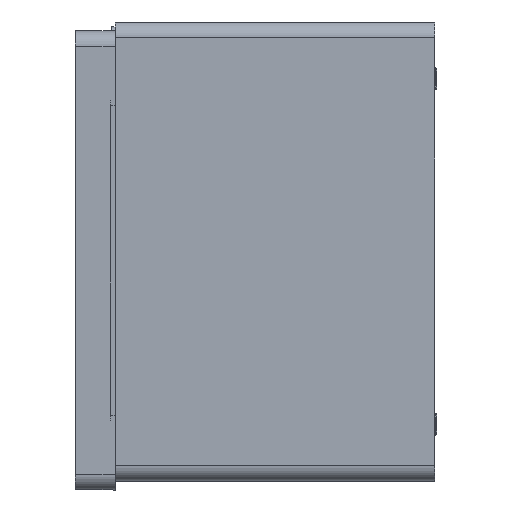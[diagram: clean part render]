
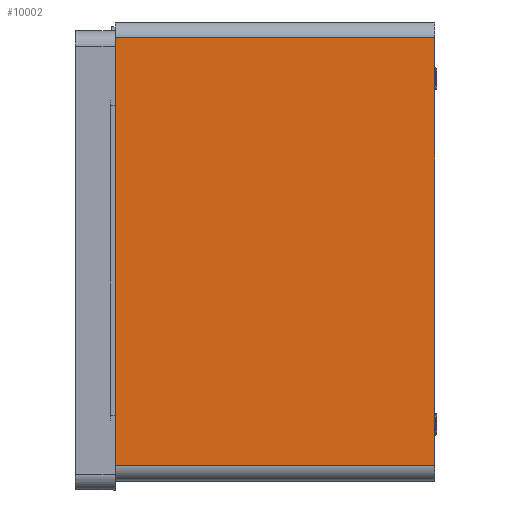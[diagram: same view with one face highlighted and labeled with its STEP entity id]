
A CAD part, left-side view. The second image highlights one B-rep face of the part: STEP entity #10002.
In plain terms, the highlighted planar face has unit normal (-1, 0, 0).
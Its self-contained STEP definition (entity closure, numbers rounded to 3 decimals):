
#78 = CARTESIAN_POINT ( 'NONE',  ( -165., 160., 107. ) ) ;
#1063 = ORIENTED_EDGE ( 'NONE', *, *, #20708, .T. ) ;
#2649 = DIRECTION ( 'NONE',  ( 0., 0., -1. ) ) ;
#2733 = VERTEX_POINT ( 'NONE', #78 ) ;
#3170 = VECTOR ( 'NONE', #15038, 1000. ) ;
#3516 = AXIS2_PLACEMENT_3D ( 'NONE', #11048, #21936, #2649 ) ;
#5884 = EDGE_CURVE ( 'NONE', #7069, #15646, #7267, .T. ) ;
#6091 = DIRECTION ( 'NONE',  ( 0., 0., 1. ) ) ;
#6212 = EDGE_CURVE ( 'NONE', #25287, #2733, #23024, .T. ) ;
#6649 = VECTOR ( 'NONE', #13894, 1000. ) ;
#7069 = VERTEX_POINT ( 'NONE', #11928 ) ;
#7267 = LINE ( 'NONE', #15680, #6649 ) ;
#7484 = CARTESIAN_POINT ( 'NONE',  ( -165., 0., -107. ) ) ;
#8034 = LINE ( 'NONE', #24824, #8131 ) ;
#8131 = VECTOR ( 'NONE', #6091, 1000. ) ;
#8187 = ORIENTED_EDGE ( 'NONE', *, *, #22370, .F. ) ;
#10002 = ADVANCED_FACE ( 'NONE', ( #15876 ), #21528, .F. ) ;
#11048 = CARTESIAN_POINT ( 'NONE',  ( -165., 160., -115. ) ) ;
#11928 = CARTESIAN_POINT ( 'NONE',  ( -165., 160., -107. ) ) ;
#12186 = EDGE_LOOP ( 'NONE', ( #1063, #25700, #8187, #21840 ) ) ;
#13094 = CARTESIAN_POINT ( 'NONE',  ( -165., 0., 107. ) ) ;
#13894 = DIRECTION ( 'NONE',  ( 0., -1., 0. ) ) ;
#15038 = DIRECTION ( 'NONE',  ( 0., 1., 0. ) ) ;
#15646 = VERTEX_POINT ( 'NONE', #7484 ) ;
#15680 = CARTESIAN_POINT ( 'NONE',  ( -165., 160., -107. ) ) ;
#15876 = FACE_OUTER_BOUND ( 'NONE', #12186, .T. ) ;
#17055 = CARTESIAN_POINT ( 'NONE',  ( -165., 0., -115. ) ) ;
#18717 = LINE ( 'NONE', #17055, #20873 ) ;
#20708 = EDGE_CURVE ( 'NONE', #15646, #25287, #18717, .T. ) ;
#20873 = VECTOR ( 'NONE', #22961, 1000. ) ;
#21247 = CARTESIAN_POINT ( 'NONE',  ( -165., 160., 107. ) ) ;
#21528 = PLANE ( 'NONE',  #3516 ) ;
#21840 = ORIENTED_EDGE ( 'NONE', *, *, #5884, .T. ) ;
#21936 = DIRECTION ( 'NONE',  ( 1., 0., 0. ) ) ;
#22370 = EDGE_CURVE ( 'NONE', #7069, #2733, #8034, .T. ) ;
#22961 = DIRECTION ( 'NONE',  ( 0., 0., 1. ) ) ;
#23024 = LINE ( 'NONE', #21247, #3170 ) ;
#24824 = CARTESIAN_POINT ( 'NONE',  ( -165., 160., -115. ) ) ;
#25287 = VERTEX_POINT ( 'NONE', #13094 ) ;
#25700 = ORIENTED_EDGE ( 'NONE', *, *, #6212, .T. ) ;
